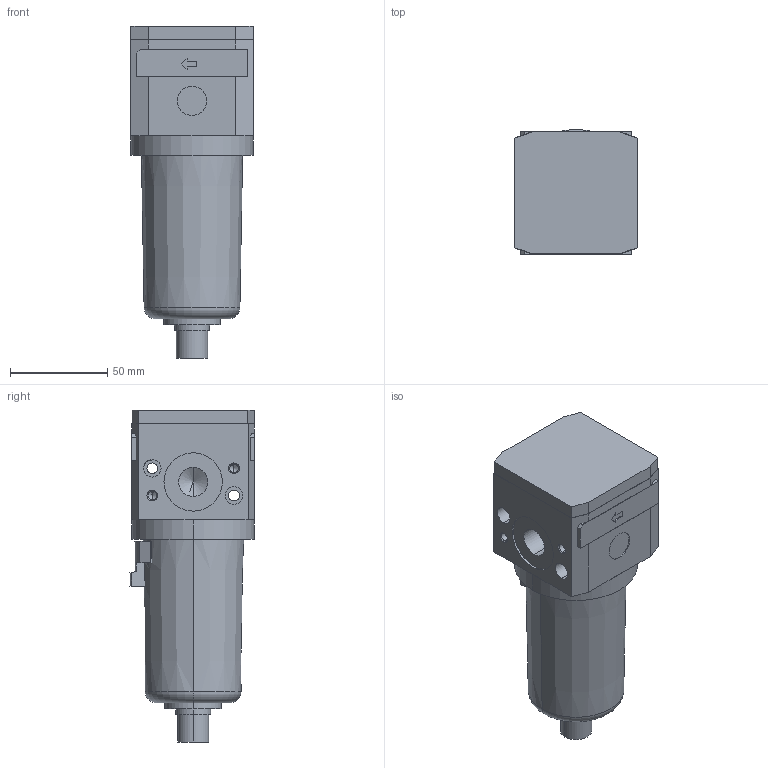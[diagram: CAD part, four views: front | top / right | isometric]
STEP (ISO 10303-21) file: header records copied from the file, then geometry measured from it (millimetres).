
FILE_DESCRIPTION((''),'2;1');
FILE_NAME('I:\DOC-EDP\Lib-3d\FRL\17301A_.stp','2003-06-16T14:57:18',('maffial1'),(''),'Autodesk Inventor 7','Autodesk Inventor 7','');
FILE_SCHEMA(('AUTOMOTIVE_DESIGN { 1 0 10303 214 1 1 1 1 }'));
Length unit declared in the file: millimetre
Products named in the file (1): 17301A_
Bounding box: 63 x 64.18 x 170.7 mm (x, y, z)
Volume: 412447.9 mm3; surface area: 50229.2 mm2
Topology: 1 solids, 3 shells, 171 faces, 418 edges, 262 vertices
Faces by surface type: plane 70, bspline 54, cylinder 32, cone 13, torus 2
Entity records: 5319 total; most frequent: CARTESIAN_POINT 1394, ORIENTED_EDGE 812, DIRECTION 770, EDGE_CURVE 406, VECTOR 278, LINE 278, VERTEX_POINT 262, AXIS2_PLACEMENT_3D 246
